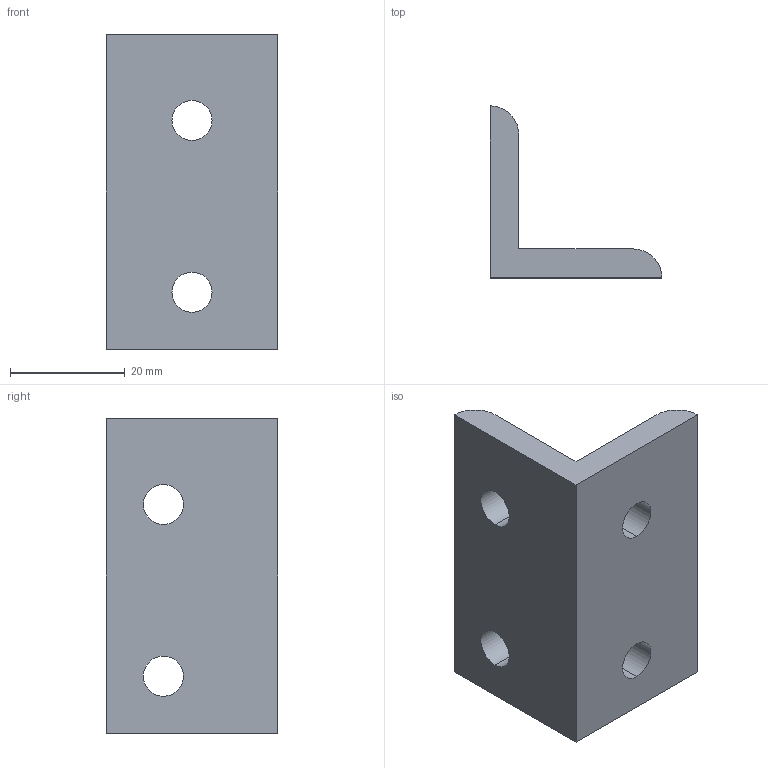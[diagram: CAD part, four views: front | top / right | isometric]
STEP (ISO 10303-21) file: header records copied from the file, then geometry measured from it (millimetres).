
FILE_DESCRIPTION (( 'STEP AP203' ), '1' );
FILE_NAME ('WL5530-6.STEP', '2024-02-17T07:20:02', ( '' ), ( '' ), 'SwSTEP 2.0', 'SolidWorks 2022', '' );
FILE_SCHEMA (( 'CONFIG_CONTROL_DESIGN' ));
Length unit declared in the file: millimetre
Products named in the file (1): WL5530-6
Bounding box: 30 x 30 x 55 mm (x, y, z)
Volume: 13765.2 mm3; surface area: 7024.4 mm2
Topology: 1 solids, 1 shells, 16 faces, 42 edges, 28 vertices
Faces by surface type: cylinder 10, plane 6
Entity records: 599 total; most frequent: DIRECTION 96, CARTESIAN_POINT 87, ORIENTED_EDGE 84, EDGE_CURVE 42, AXIS2_PLACEMENT_3D 37, VERTEX_POINT 28, EDGE_LOOP 24, LINE 22
